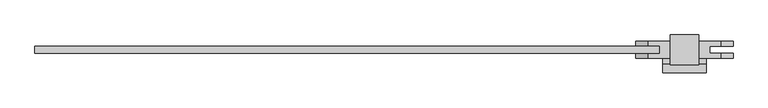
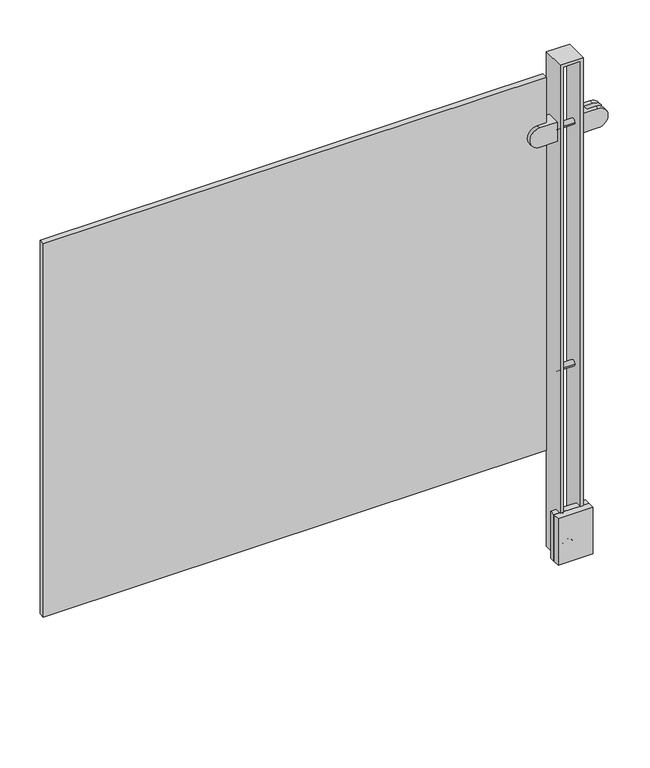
"""IFC4 building model written with IfcOpenShell, lengths in millimetres: proxy geometry, LIVERS_ICN - Glass Panel : LIVERS_ICN - Glass Panel."""

from ifc_helpers import new_model, si_unit, point, frame, origin, place, context, project, spatial, polyline, circle_curve, ellipse_curve, trimmed, outline, extrude, faceted_brep, source, transform, mapped, element, save
from ifc_brep_helpers import plane_surface, cylinder_surface, revolved_surface, advanced_brep


def building_element_proxy_2015c6e3(model_context):
    return source(origin(), model_context, "Body", "SolidModel", [
        advanced_brep(
        [(1164.2787319, 55.5624457, 872.3369168), (1164.2787319, 25.3999457, 872.3369168), (1164.2787319, 25.3999457, 827.8869168), (1164.2787319, 55.5624457, 827.8869168), (1126.0776379, 55.5624457, 827.8869168), (1126.0776379, 55.5624457, 872.3369168), (1126.0776379, 25.3999457, 827.8869168), (1126.0776379, 34.1311957, 827.8869168), (1145.4068127, 34.1311957, 827.8869168), (1145.4068127, 46.8311957, 827.8869168), (1126.0776379, 46.8311957, 827.8869168), (1126.0776379, 25.3999457, 872.3369168), (1126.0776379, 46.8311957, 872.3369168), (1145.4068127, 46.8311957, 872.3369168), (1145.4068127, 34.1311957, 872.3369168), (1126.0776379, 34.1311957, 872.3369168)],
        [
            (0, 1),
            (1, 2),
            (2, 3),
            (3, 0),
            (3, 4),
            (4, 5, circle_curve(frame((1126.0776379, 55.5624457, 850.1119168), z_axis=(0.0, 1.0, 0.0), x_axis=(0.0, 0.0, -1.0)), 22.225)),
            (5, 0),
            (2, 6),
            (6, 7),
            (7, 8),
            (8, 9),
            (9, 10),
            (10, 4),
            (1, 11),
            (11, 6, circle_curve(frame((1126.0776379, 25.3999457, 850.1119168), z_axis=(0.0, -1.0, 0.0), x_axis=(0.0, 0.0, -1.0)), 22.225)),
            (5, 12),
            (12, 13),
            (13, 14),
            (14, 15),
            (15, 11),
            (13, 9),
            (8, 14),
            (12, 10, circle_curve(frame((1126.0776379, 46.8311957, 850.1119168), z_axis=(0.0, -1.0, 0.0), x_axis=(0.0, 0.0, -1.0)), 22.225)),
            (7, 15, circle_curve(frame((1126.0776379, 34.1311957, 850.1119168), z_axis=(0.0, 1.0, 0.0), x_axis=(0.0, 0.0, -1.0)), 22.225)),
        ],
        [
            plane_surface(frame((1164.2787319, 55.5624457, 827.8869168), z_axis=(1.0, 0.0, 0.0), x_axis=(0.0, 0.0, 1.0))),
            plane_surface(frame((1103.7756511, 55.5624457, 872.3369168), z_axis=(0.0, 1.0, 0.0), x_axis=(1.0, 0.0, 0.0))),
            plane_surface(frame((1103.7756511, 55.5624457, 827.8869168), z_axis=(0.0, 0.0, -1.0), x_axis=(1.0, 0.0, 0.0))),
            plane_surface(frame((1103.7756511, 25.3999457, 827.8869168), z_axis=(0.0, -1.0, 0.0), x_axis=(1.0, 0.0, 0.0))),
            plane_surface(frame((1103.7756511, 25.3999457, 872.3369168), z_axis=(0.0, 0.0, 1.0), x_axis=(1.0, 0.0, 0.0))),
            plane_surface(frame((1145.4068127, 46.8311957, 827.8869168), z_axis=(-1.0, 0.0, 0.0), x_axis=(0.0, 0.0, 1.0))),
            plane_surface(frame((1103.7756511, 46.8311957, 872.3369168), z_axis=(0.0, -1.0, 0.0), x_axis=(1.0, 0.0, 0.0))),
            plane_surface(frame((1103.7756511, 34.1311957, 827.8869168), z_axis=(0.0, 1.0, 0.0), x_axis=(1.0, 0.0, 0.0))),
            cylinder_surface(frame((1126.0776379, 55.5624457, 850.1119168), z_axis=(0.0, 1.0, 0.0), x_axis=(0.0, 0.0, -1.0)), 22.225),
        ],
        [
            (0, [[1, 2, 3, 4]]),
            (1, [[-4, 5, 6, 7]]),
            (2, [[-3, 8, 9, 10, 11, 12, 13, -5]]),
            (3, [[-2, 14, 15, -8]]),
            (4, [[-1, -7, 16, 17, 18, 19, 20, -14]]),
            (5, [[21, -11, 22, -18]]),
            (6, [[-21, -17, 23, -12]]),
            (7, [[-22, -10, 24, -19]]),
            (8, [[-6, -13, -23, -16]]),
            (8, [[-9, -15, -20, -24]]),
        ],
    ),
        advanced_brep(
        [(1215.0787319, 55.5624457, 872.3369168), (1215.0787319, 55.5624457, 827.8869168), (1215.0787319, 25.3999457, 827.8869168), (1215.0787319, 25.3999457, 872.3369168), (1253.2798259, 55.5624457, 872.3369168), (1253.2798259, 55.5624457, 827.8869168), (1253.2798259, 46.8311957, 827.8869168), (1233.9506511, 46.8311957, 827.8869168), (1233.9506511, 34.1311957, 827.8869168), (1253.2798259, 34.1311957, 827.8869168), (1253.2798259, 25.3999457, 827.8869168), (1253.2798259, 25.3999457, 872.3369168), (1253.2798259, 34.1311957, 872.3369168), (1233.9506511, 34.1311957, 872.3369168), (1233.9506511, 46.8311957, 872.3369168), (1253.2798259, 46.8311957, 872.3369168)],
        [
            (0, 1),
            (1, 2),
            (2, 3),
            (3, 0),
            (0, 4),
            (4, 5, circle_curve(frame((1253.2798259, 55.5624457, 850.1119168), z_axis=(0.0, 1.0, 0.0), x_axis=(0.0, 0.0, -1.0)), 22.225)),
            (5, 1),
            (5, 6),
            (6, 7),
            (7, 8),
            (8, 9),
            (9, 10),
            (10, 2),
            (10, 11, circle_curve(frame((1253.2798259, 25.3999457, 850.1119168), z_axis=(0.0, -1.0, 0.0), x_axis=(0.0, 0.0, -1.0)), 22.225)),
            (11, 3),
            (11, 12),
            (12, 13),
            (13, 14),
            (14, 15),
            (15, 4),
            (13, 8),
            (7, 14),
            (6, 15, circle_curve(frame((1253.2798259, 46.8311957, 850.1119168), z_axis=(0.0, -1.0, 0.0), x_axis=(0.0, 0.0, -1.0)), 22.225)),
            (12, 9, circle_curve(frame((1253.2798259, 34.1311957, 850.1119168), z_axis=(0.0, 1.0, 0.0), x_axis=(0.0, 0.0, -1.0)), 22.225)),
        ],
        [
            plane_surface(frame((1215.0787319, 55.5624457, 827.8869168), z_axis=(-1.0, 0.0, 0.0), x_axis=(0.0, 0.0, 1.0))),
            plane_surface(frame((1275.5818127, 55.5624457, 872.3369168), z_axis=(0.0, 1.0, 0.0), x_axis=(-1.0, 0.0, 0.0))),
            plane_surface(frame((1275.5818127, 55.5624457, 827.8869168), z_axis=(0.0, 0.0, -1.0), x_axis=(-1.0, 0.0, 0.0))),
            plane_surface(frame((1275.5818127, 25.3999457, 827.8869168), z_axis=(0.0, -1.0, 0.0), x_axis=(-1.0, 0.0, 0.0))),
            plane_surface(frame((1275.5818127, 25.3999457, 872.3369168), z_axis=(0.0, 0.0, 1.0), x_axis=(-1.0, 0.0, 0.0))),
            plane_surface(frame((1233.9506511, 46.8311957, 827.8869168), z_axis=(1.0, 0.0, 0.0), x_axis=(0.0, 0.0, 1.0))),
            plane_surface(frame((1275.5818127, 46.8311957, 872.3369168), z_axis=(0.0, -1.0, 0.0), x_axis=(-1.0, 0.0, 0.0))),
            plane_surface(frame((1275.5818127, 34.1311957, 827.8869168), z_axis=(0.0, 1.0, 0.0), x_axis=(-1.0, 0.0, 0.0))),
            cylinder_surface(frame((1253.2798259, 55.5624457, 850.1119168), z_axis=(0.0, 1.0, 0.0), x_axis=(0.0, 0.0, -1.0)), 22.225),
        ],
        [
            (0, [[1, 2, 3, 4]]),
            (1, [[5, 6, 7, -1]]),
            (2, [[-7, 8, 9, 10, 11, 12, 13, -2]]),
            (3, [[-13, 14, 15, -3]]),
            (4, [[-15, 16, 17, 18, 19, 20, -5, -4]]),
            (5, [[-18, 21, -10, 22]]),
            (6, [[-9, 23, -19, -22]]),
            (7, [[-17, 24, -11, -21]]),
            (8, [[-20, -23, -8, -6]]),
            (8, [[-24, -16, -14, -12]]),
        ],
    ),
        advanced_brep(
        [(1189.6787319, 28.575, -125.3541166), (1189.6787319, 29.7562407, -125.3541166), (1189.6787319, 29.7562407, -103.1291055), (1189.6787319, 28.575, -103.1291055), (1189.6787319, 28.575, -114.2416111), (1189.6787319, 32.325, -119.8541166), (1189.6787319, 30.8816229, -114.2416111), (1189.6787319, 32.325, -108.6291055), (1189.6787319, 34.8740117, -119.8541166), (1189.6787319, 34.8740117, -108.6291055), (1189.6787319, 33.8500285, -122.802123), (1189.6787319, 33.8500285, -105.6810991), (1189.6787319, 31.8562692, -124.5603989), (1189.6787319, 31.8562692, -103.9228232)],
        [
            (0, 1),
            (1, 2, circle_curve(frame((1189.6787319, 29.7562407, -114.2416111), z_axis=(0.0, -1.0, 0.0), x_axis=(0.0, 0.0, 1.0)), 11.1125056)),
            (2, 3),
            (3, 0, circle_curve(frame((1189.6787319, 28.575, -114.2416111), z_axis=(0.0, 1.0, 0.0), x_axis=(0.0, 0.0, 1.0)), 11.1125056)),
            (2, 1, circle_curve(frame((1189.6787319, 29.7562407, -114.2416111), z_axis=(0.0, -1.0, 0.0), x_axis=(0.0, 0.0, 1.0)), 11.1125056)),
            (0, 3, circle_curve(frame((1189.6787319, 28.575, -114.2416111), z_axis=(0.0, 1.0, 0.0), x_axis=(0.0, 0.0, 1.0)), 11.1125056)),
            (4, 0),
            (3, 4),
            (5, 6),
            (6, 7),
            (7, 5, circle_curve(frame((1189.6787319, 32.325, -114.2416111), z_axis=(0.0, 1.0, 0.0), x_axis=(0.0, 0.0, 1.0)), 5.6125056)),
            (5, 7, circle_curve(frame((1189.6787319, 32.325, -114.2416111), z_axis=(0.0, 1.0, 0.0), x_axis=(0.0, 0.0, 1.0)), 5.6125056)),
            (8, 5),
            (7, 9),
            (9, 8, circle_curve(frame((1189.6787319, 34.8740117, -114.2416111), z_axis=(0.0, 1.0, 0.0), x_axis=(0.0, 0.0, 1.0)), 5.6125056)),
            (8, 9, circle_curve(frame((1189.6787319, 34.8740117, -114.2416111), z_axis=(0.0, 1.0, 0.0), x_axis=(0.0, 0.0, 1.0)), 5.6125056)),
            (10, 8, circle_curve(frame((1189.6787319, 31.75, -120.4208407), z_axis=(1.0, 0.0, 0.0), x_axis=(0.0, -1.0, 0.0)), 3.175)),
            (9, 11, circle_curve(frame((1189.6787319, 31.75, -108.0623814), z_axis=(1.0, 0.0, 0.0), x_axis=(0.0, -1.0, 0.0)), 3.175)),
            (11, 10, circle_curve(frame((1189.6787319, 33.8500285, -114.2416111), z_axis=(0.0, 1.0, 0.0), x_axis=(0.0, 0.0, 1.0)), 8.560512)),
            (10, 11, circle_curve(frame((1189.6787319, 33.8500285, -114.2416111), z_axis=(0.0, 1.0, 0.0), x_axis=(0.0, 0.0, 1.0)), 8.560512)),
            (12, 10),
            (11, 13),
            (13, 12, circle_curve(frame((1189.6787319, 31.8562692, -114.2416111), z_axis=(0.0, 1.0, 0.0), x_axis=(0.0, 0.0, 1.0)), 10.3187879)),
            (12, 13, circle_curve(frame((1189.6787319, 31.8562692, -114.2416111), z_axis=(0.0, 1.0, 0.0), x_axis=(0.0, 0.0, 1.0)), 10.3187879)),
            (1, 12, circle_curve(frame((1189.6787319, 29.7562407, -122.1791166), z_axis=(1.0, 0.0, 0.0), x_axis=(0.0, -1.0, 0.0)), 3.175)),
            (13, 2, circle_curve(frame((1189.6787319, 29.7562407, -106.3041055), z_axis=(1.0, 0.0, 0.0), x_axis=(0.0, -1.0, 0.0)), 3.175)),
        ],
        [
            cylinder_surface(frame((1189.6787319, 28.575, -114.2416111), z_axis=(0.0, -1.0, 0.0), x_axis=(0.0, 0.0, 1.0)), 11.1125056),
            plane_surface(frame((1189.6787319, 28.575, -114.2416111), z_axis=(0.0, -1.0, 0.0), x_axis=(0.0, 0.0, 1.0))),
            revolved_surface(polyline([(1189.6787319, 30.8816229, -114.2416111), (1189.6787319, 32.325, -108.6291055)]), (1189.6787319, 28.575, -114.2416111), (0.0, -1.0, 0.0)),
            revolved_surface(polyline([(1189.6787319, 32.325, -108.6291055), (1189.6787319, 34.8740117, -108.6291055)]), (1189.6787319, 28.575, -114.2416111), (0.0, -1.0, 0.0)),
            revolved_surface(trimmed(ellipse_curve(frame((1189.6787319, 31.75, -108.0623814), z_axis=(1.0, 0.0, 0.0), x_axis=(0.0, -1.0, 0.0)), 3.175, 3.175), [point((1189.6787319, 34.8740117, -108.6291055))], [point((1189.6787319, 33.8500285, -105.6810991))], True, "CARTESIAN"), (1189.6787319, 28.575, -114.2416111), (0.0, -1.0, 0.0)),
            revolved_surface(polyline([(1189.6787319, 33.8500285, -105.6810991), (1189.6787319, 31.8562692, -103.9228232)]), (1189.6787319, 28.575, -114.2416111), (0.0, -1.0, 0.0)),
            revolved_surface(trimmed(ellipse_curve(frame((1189.6787319, 29.7562407, -106.3041055), z_axis=(1.0, 0.0, 0.0), x_axis=(0.0, -1.0, 0.0)), 3.175, 3.175), [point((1189.6787319, 31.8562692, -103.9228232))], [point((1189.6787319, 29.7562407, -103.1291055))], True, "CARTESIAN"), (1189.6787319, 28.575, -114.2416111), (0.0, -1.0, 0.0)),
        ],
        [
            (0, [[1, 2, 3, 4]]),
            (0, [[-3, 5, -1, 6]]),
            (1, [[7, -4, 8]]),
            (1, [[-8, -6, -7]]),
            (2, [[9, 10, 11]]),
            (2, [[-10, -9, 12]]),
            (3, [[13, -11, 14, 15]]),
            (3, [[-14, -12, -13, 16]]),
            (4, [[17, -15, 18, 19]]),
            (4, [[-18, -16, -17, 20]]),
            (5, [[21, -19, 22, 23]]),
            (5, [[-22, -20, -21, 24]]),
            (6, [[25, -23, 26, -2]]),
            (6, [[-26, -24, -25, -5]]),
        ],
    ),
        advanced_brep(
        [(1189.6787319, 28.575, -55.5041166), (1189.6787319, 29.7562407, -55.5041166), (1189.6787319, 29.7562407, -33.2791055), (1189.6787319, 28.575, -33.2791055), (1189.6787319, 28.575, -44.3916111), (1189.6787319, 33.8500285, -52.952123), (1189.6787319, 34.8740117, -50.0041166), (1189.6787319, 34.8740117, -38.7791055), (1189.6787319, 33.8500285, -35.8310991), (1189.6787319, 31.8562692, -54.7103989), (1189.6787319, 31.8562692, -34.0728232), (1189.6787319, 32.325, -50.0041166), (1189.6787319, 30.8816229, -44.3916111), (1189.6787319, 32.325, -38.7791055)],
        [
            (0, 1),
            (1, 2, circle_curve(frame((1189.6787319, 29.7562407, -44.3916111), z_axis=(0.0, -1.0, 0.0), x_axis=(0.0, 0.0, 1.0)), 11.1125056)),
            (2, 3),
            (3, 0, circle_curve(frame((1189.6787319, 28.575, -44.3916111), z_axis=(0.0, 1.0, 0.0), x_axis=(0.0, 0.0, 1.0)), 11.1125056)),
            (2, 1, circle_curve(frame((1189.6787319, 29.7562407, -44.3916111), z_axis=(0.0, -1.0, 0.0), x_axis=(0.0, 0.0, 1.0)), 11.1125056)),
            (0, 3, circle_curve(frame((1189.6787319, 28.575, -44.3916111), z_axis=(0.0, 1.0, 0.0), x_axis=(0.0, 0.0, 1.0)), 11.1125056)),
            (4, 0),
            (3, 4),
            (5, 6, circle_curve(frame((1189.6787319, 31.75, -50.5708407), z_axis=(1.0, 0.0, 0.0), x_axis=(0.0, -1.0, 0.0)), 3.175)),
            (6, 7, circle_curve(frame((1189.6787319, 34.8740117, -44.3916111), z_axis=(0.0, -1.0, 0.0), x_axis=(0.0, 0.0, 1.0)), 5.6125056)),
            (7, 8, circle_curve(frame((1189.6787319, 31.75, -38.2123814), z_axis=(1.0, 0.0, 0.0), x_axis=(0.0, -1.0, 0.0)), 3.175)),
            (8, 5, circle_curve(frame((1189.6787319, 33.8500285, -44.3916111), z_axis=(0.0, 1.0, 0.0), x_axis=(0.0, 0.0, 1.0)), 8.560512)),
            (7, 6, circle_curve(frame((1189.6787319, 34.8740117, -44.3916111), z_axis=(0.0, -1.0, 0.0), x_axis=(0.0, 0.0, 1.0)), 5.6125056)),
            (5, 8, circle_curve(frame((1189.6787319, 33.8500285, -44.3916111), z_axis=(0.0, 1.0, 0.0), x_axis=(0.0, 0.0, 1.0)), 8.560512)),
            (9, 5),
            (8, 10),
            (10, 9, circle_curve(frame((1189.6787319, 31.8562692, -44.3916111), z_axis=(0.0, 1.0, 0.0), x_axis=(0.0, 0.0, 1.0)), 10.3187879)),
            (9, 10, circle_curve(frame((1189.6787319, 31.8562692, -44.3916111), z_axis=(0.0, 1.0, 0.0), x_axis=(0.0, 0.0, 1.0)), 10.3187879)),
            (1, 9, circle_curve(frame((1189.6787319, 29.7562407, -52.3291166), z_axis=(1.0, 0.0, 0.0), x_axis=(0.0, -1.0, 0.0)), 3.175)),
            (10, 2, circle_curve(frame((1189.6787319, 29.7562407, -36.4541055), z_axis=(1.0, 0.0, 0.0), x_axis=(0.0, -1.0, 0.0)), 3.175)),
            (11, 12),
            (12, 13),
            (13, 11, circle_curve(frame((1189.6787319, 32.325, -44.3916111), z_axis=(0.0, 1.0, 0.0), x_axis=(0.0, 0.0, 1.0)), 5.6125056)),
            (11, 13, circle_curve(frame((1189.6787319, 32.325, -44.3916111), z_axis=(0.0, 1.0, 0.0), x_axis=(0.0, 0.0, 1.0)), 5.6125056)),
            (6, 11),
            (13, 7),
        ],
        [
            cylinder_surface(frame((1189.6787319, 28.575, -44.3916111), z_axis=(0.0, -1.0, 0.0), x_axis=(0.0, 0.0, 1.0)), 11.1125056),
            plane_surface(frame((1189.6787319, 28.575, -44.3916111), z_axis=(0.0, -1.0, 0.0), x_axis=(0.0, 0.0, 1.0))),
            revolved_surface(trimmed(ellipse_curve(frame((1189.6787319, 31.75, -38.2123814), z_axis=(1.0, 0.0, 0.0), x_axis=(0.0, -1.0, 0.0)), 3.175, 3.175), [point((1189.6787319, 34.8740117, -38.7791055))], [point((1189.6787319, 33.8500285, -35.8310991))], True, "CARTESIAN"), (1189.6787319, 28.575, -44.3916111), (0.0, -1.0, 0.0)),
            revolved_surface(polyline([(1189.6787319, 33.8500285, -35.8310991), (1189.6787319, 31.8562692, -34.0728232)]), (1189.6787319, 28.575, -44.3916111), (0.0, -1.0, 0.0)),
            revolved_surface(trimmed(ellipse_curve(frame((1189.6787319, 29.7562407, -36.4541055), z_axis=(1.0, 0.0, 0.0), x_axis=(0.0, -1.0, 0.0)), 3.175, 3.175), [point((1189.6787319, 31.8562692, -34.0728232))], [point((1189.6787319, 29.7562407, -33.2791055))], True, "CARTESIAN"), (1189.6787319, 28.575, -44.3916111), (0.0, -1.0, 0.0)),
            revolved_surface(polyline([(1189.6787319, 30.8816229, -44.3916111), (1189.6787319, 32.325, -38.7791055)]), (1189.6787319, 28.575, -44.3916111), (0.0, -1.0, 0.0)),
            revolved_surface(polyline([(1189.6787319, 32.325, -38.7791055), (1189.6787319, 34.8740117, -38.7791055)]), (1189.6787319, 28.575, -44.3916111), (0.0, -1.0, 0.0)),
        ],
        [
            (0, [[1, 2, 3, 4]]),
            (0, [[-3, 5, -1, 6]]),
            (1, [[7, -4, 8]]),
            (1, [[-8, -6, -7]]),
            (2, [[9, 10, 11, 12]]),
            (2, [[-11, 13, -9, 14]]),
            (3, [[15, -12, 16, 17]]),
            (3, [[-16, -14, -15, 18]]),
            (4, [[19, -17, 20, -2]]),
            (4, [[-20, -18, -19, -5]]),
            (5, [[21, 22, 23]]),
            (5, [[-22, -21, 24]]),
            (6, [[25, -23, 26, -10]]),
            (6, [[-26, -24, -25, -13]]),
        ],
    ),
        faceted_brep([(1215.0787319, 14.2874305, 1010.2680522), (1215.0787319, 14.2874305, -133.2916111), (1215.0787319, 15.875, -133.2916111), (1215.0787319, 15.875, -25.3416111), (1215.0787319, 28.575, -25.3416111), (1215.0787319, 28.575, -133.2916111), (1215.0787319, 66.6749609, -133.2916111), (1215.0787319, 66.6749609, 1010.2680522), (1208.7287319, 66.6749609, -133.2916111), (1208.7287319, 28.575, -133.2916111), (1208.7287319, 28.575, -25.3416111), (1208.7287319, 15.875, -25.3416111), (1208.7287319, 15.875, -133.2916111), (1208.7287319, 14.2874305, -133.2916111), (1208.7287319, 14.2874305, 1003.9180522), (1208.7287319, 66.6749609, 1003.9180522), (1151.5787319, 28.575, -133.2916111), (1164.2787319, 28.575, -133.2916111), (1164.2787319, 66.6749609, -133.2916111), (1170.6287319, 66.6749609, -133.2916111), (1170.6287319, 28.575, -133.2916111), (1227.7787319, 28.575, -133.2916111), (1227.7787319, 15.875, -133.2916111), (1170.6287319, 15.875, -133.2916111), (1170.6287319, 14.2874305, -133.2916111), (1164.2787319, 14.2874305, -133.2916111), (1164.2787319, 15.875, -133.2916111), (1151.5787319, 15.875, -133.2916111), (1164.2787319, 14.2874305, 1010.2680522), (1170.6287319, 14.2874305, 1003.9180522), (1164.2787319, 66.6749609, 1010.2680522), (1170.6287319, 66.6749609, 1003.9180522), (1170.6287319, 15.875, -25.3416111), (1170.6287319, 28.575, -25.3416111), (1164.2787319, 28.575, -25.3416111), (1164.2787319, 15.875, -25.3416111), (1227.7787319, 28.575, -25.3416111), (1151.5787319, 28.575, -25.3416111), (1151.5787319, 15.875, -25.3416111), (1227.7787319, 15.875, -25.3416111)], [[[0, 1, 2, 3, 4, 5, 6, 7]], [[8, 9, 10, 11, 12, 13, 14, 15]], [[16, 17, 18, 19, 20, 9, 8, 6, 5, 21, 22, 2, 1, 13, 12, 23, 24, 25, 26, 27]], [[1, 0, 28, 25, 24, 29, 14, 13]], [[7, 30, 28, 0]], [[8, 15, 31, 19, 18, 30, 7, 6]], [[24, 23, 32, 33, 20, 19, 31, 29]], [[14, 29, 31, 15]], [[30, 18, 17, 34, 35, 26, 25, 28]], [[20, 33, 10, 9]], [[21, 5, 4, 36]], [[37, 34, 17, 16]], [[12, 11, 32, 23]], [[27, 26, 35, 38]], [[39, 3, 2, 22]], [[36, 39, 22, 21]], [[33, 32, 11, 10]], [[36, 4, 3, 39]], [[38, 35, 34, 37]], [[16, 27, 38, 37]]]),
        extrude(outline(polyline([(1227.7787319, 15.875), (1227.7787319, 0.0), (1151.5787319, 0.0), (1151.5787319, 15.875), (1227.7787319, 15.875)])), frame((0.0, 0.0, -133.2916111), z_axis=(0.0, 0.0, 1.0), x_axis=(1.0, 0.0, 0.0)), (0.0, 0.0, 1.0), 107.95),
        advanced_brep(
        [(1170.6287319, 41.2749421, 291.3119224), (1170.6287319, 47.5989918, 291.3119224), (1170.6287319, 34.9508924, 291.3119224), (1208.7427181, 47.5989918, 291.3119224), (1208.7427181, 41.2749421, 291.3119224), (1208.7427181, 34.9508924, 291.3119224)],
        [
            (0, 1),
            (1, 2, circle_curve(frame((1170.6287319, 41.2749421, 291.3119224), z_axis=(-1.0, 0.0, 0.0), x_axis=(0.0, -1.0, 0.0)), 6.3240497)),
            (2, 0),
            (2, 1, circle_curve(frame((1170.6287319, 41.2749421, 291.3119224), z_axis=(-1.0, 0.0, 0.0), x_axis=(0.0, -1.0, 0.0)), 6.3240497)),
            (3, 4),
            (4, 5),
            (5, 3, circle_curve(frame((1208.7427181, 41.2749421, 291.3119224), z_axis=(1.0, 0.0, 0.0), x_axis=(0.0, -1.0, 0.0)), 6.3240497)),
            (3, 5, circle_curve(frame((1208.7427181, 41.2749421, 291.3119224), z_axis=(1.0, 0.0, 0.0), x_axis=(0.0, -1.0, 0.0)), 6.3240497)),
            (1, 3),
            (5, 2),
        ],
        [
            plane_surface(frame((1170.6287319, 41.2749421, 291.3119224), z_axis=(-1.0, 0.0, 0.0), x_axis=(0.0, -1.0, 0.0))),
            plane_surface(frame((1208.7427181, 41.2749421, 291.3119224), z_axis=(1.0, 0.0, 0.0), x_axis=(0.0, -1.0, 0.0))),
            cylinder_surface(frame((1170.6287319, 41.2749421, 291.3119224), z_axis=(-1.0, 0.0, 0.0), x_axis=(0.0, -1.0, 0.0)), 6.3240497),
        ],
        [
            (0, [[1, 2, 3]]),
            (0, [[-3, 4, -1]]),
            (1, [[5, 6, 7]]),
            (1, [[-6, -5, 8]]),
            (2, [[9, -7, 10, -2]]),
            (2, [[-10, -8, -9, -4]]),
        ],
    ),
        advanced_brep(
        [(1170.6287319, 41.2749421, 850.1119224), (1170.6287319, 47.5989918, 850.1119224), (1170.6287319, 34.9508924, 850.1119224), (1208.7427181, 47.5989918, 850.1119224), (1208.7427181, 41.2749421, 850.1119224), (1208.7427181, 34.9508924, 850.1119224)],
        [
            (0, 1),
            (1, 2, circle_curve(frame((1170.6287319, 41.2749421, 850.1119224), z_axis=(-1.0, 0.0, 0.0), x_axis=(0.0, -1.0, 0.0)), 6.3240497)),
            (2, 0),
            (2, 1, circle_curve(frame((1170.6287319, 41.2749421, 850.1119224), z_axis=(-1.0, 0.0, 0.0), x_axis=(0.0, -1.0, 0.0)), 6.3240497)),
            (3, 4),
            (4, 5),
            (5, 3, circle_curve(frame((1208.7427181, 41.2749421, 850.1119224), z_axis=(1.0, 0.0, 0.0), x_axis=(0.0, -1.0, 0.0)), 6.3240497)),
            (3, 5, circle_curve(frame((1208.7427181, 41.2749421, 850.1119224), z_axis=(1.0, 0.0, 0.0), x_axis=(0.0, -1.0, 0.0)), 6.3240497)),
            (1, 3),
            (5, 2),
        ],
        [
            plane_surface(frame((1170.6287319, 41.2749421, 850.1119224), z_axis=(-1.0, 0.0, 0.0), x_axis=(0.0, -1.0, 0.0))),
            plane_surface(frame((1208.7427181, 41.2749421, 850.1119224), z_axis=(1.0, 0.0, 0.0), x_axis=(0.0, -1.0, 0.0))),
            cylinder_surface(frame((1170.6287319, 41.2749421, 850.1119224), z_axis=(-1.0, 0.0, 0.0), x_axis=(0.0, -1.0, 0.0)), 6.3240497),
        ],
        [
            (0, [[1, 2, 3]]),
            (0, [[-3, 4, -1]]),
            (1, [[5, 6, 7]]),
            (1, [[-6, -5, 8]]),
            (2, [[9, -7, 10, -2]]),
            (2, [[-10, -8, -9, -4]]),
        ],
    ),
        extrude(outline(polyline([(1145.4068127, 34.1309994), (44.2719192, 34.1309994), (44.2719192, 46.8311957), (1145.4068127, 46.8311957), (1145.4068127, 34.1309994)])), frame((0.0, 0.0, 114.3), z_axis=(0.0, 0.0, 1.0), x_axis=(1.0, 0.0, 0.0)), (0.0, 0.0, 1.0), 863.6),
    ])


if __name__ == "__main__":
    model = new_model("IFC4")
    model_context = context("Model", 3, world=origin())
    ifc_project = project(units=[si_unit("LENGTHUNIT", "METRE", prefix="MILLI")], contexts=[model_context])
    site = spatial("IfcSite", under=ifc_project)
    building = spatial("IfcBuilding", under=site)
    placement = place(None, origin())
    building_element_proxy_shape = building_element_proxy_2015c6e3(model_context)
    element("IfcBuildingElementProxy", 1, Name="LIVERS_ICN - Glass Panel : LIVERS_ICN - Glass Panel", ObjectType="LIVERS_ICN - Glass Panel : LIVERS_ICN - Glass Panel", at=placement, inside=building, context=model_context, shape_type="MappedRepresentation", body=[
        mapped(building_element_proxy_shape, transform((0.0, 0.0, 0.0), x_axis=(1.0, 0.0, 0.0), y_axis=(0.0, 1.0, 0.0), z_axis=(0.0, 0.0, 1.0))),
    ])
    save(model, "model.ifc")
